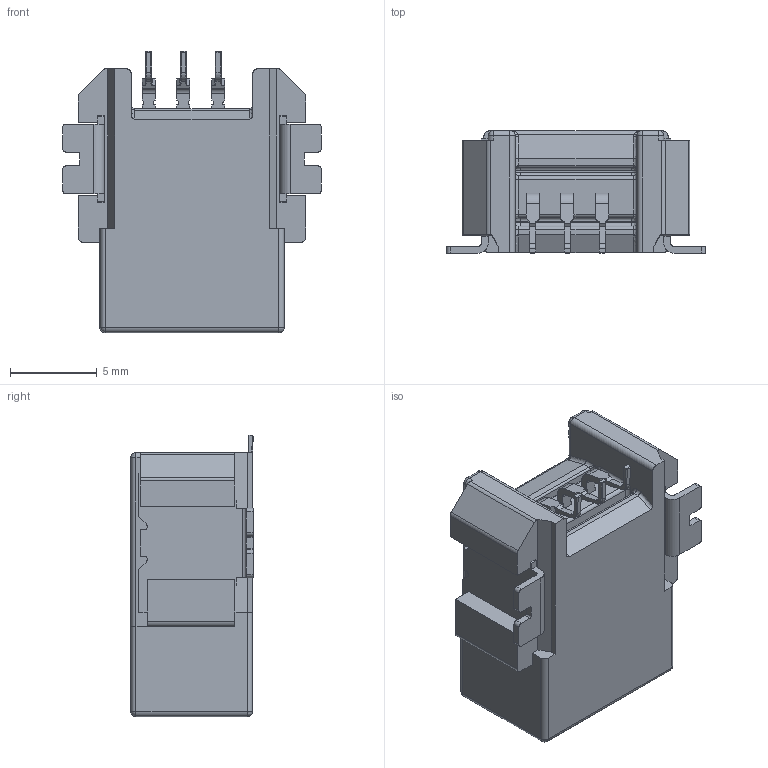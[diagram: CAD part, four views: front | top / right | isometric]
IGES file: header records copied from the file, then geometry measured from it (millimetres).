
Start section: SolidWorks IGES file using analytic representation for surfaces
Global section: file name: C:\Users\08803\Desktop\PDM\ISH全シリーズモデル(STEP)2017.2.6時点\水平\1列\3P\V0012-003_ISH_CONNECTOR_3P_MALE_CONNECTOR.IGS; native system: SolidWorks 2017; preprocessor: SolidWorks 2017; author: 08803; date: 180820.135149; units: millimetre
Bounding box: 14.9 x 7.05 x 16.2 mm (x, y, z)
Surface area: 826.5 mm2 (no closed solid volume)
Topology: 0 solids, 0 shells, 342 faces, 2246 edges, 2232 vertices
Faces by surface type: bspline 216, revolution 126
